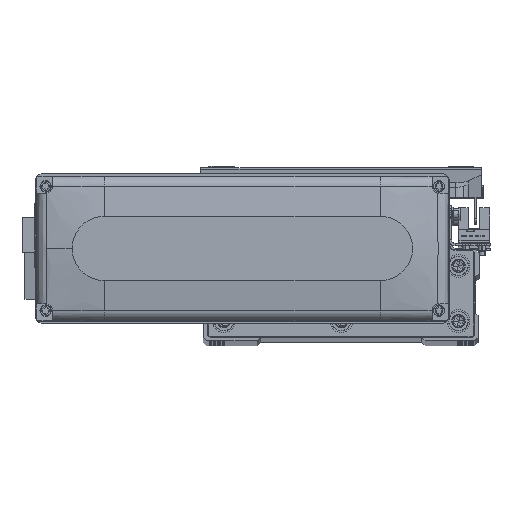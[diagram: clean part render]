
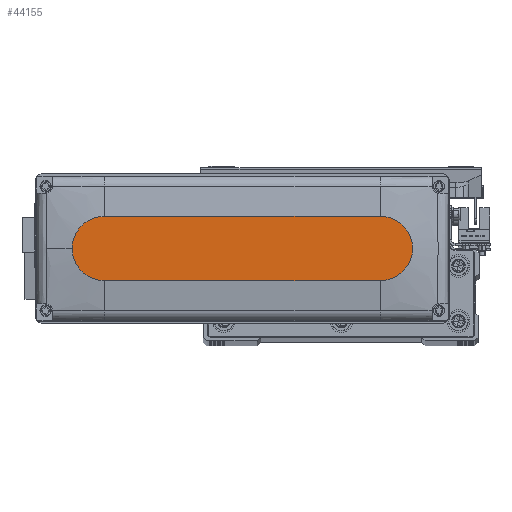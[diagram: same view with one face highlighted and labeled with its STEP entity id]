
A CAD part, top view. The second image highlights one B-rep face of the part: STEP entity #44155.
In plain terms, the highlighted planar face has unit normal (0, 0, 1).
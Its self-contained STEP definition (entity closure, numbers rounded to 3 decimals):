
#1122 = DIRECTION ( 'NONE',  ( 1., 0., 0. ) ) ;
#1348 = VECTOR ( 'NONE', #21185, 1000. ) ;
#1417 = CARTESIAN_POINT ( 'NONE',  ( -60., 14., 28.5 ) ) ;
#1425 = DIRECTION ( 'NONE',  ( 0., 0., 1. ) ) ;
#1677 = AXIS2_PLACEMENT_3D ( 'NONE', #36500, #2247, #17521 ) ;
#1908 = EDGE_CURVE ( 'NONE', #8357, #37999, #40203, .T. ) ;
#2247 = DIRECTION ( 'NONE',  ( 0., 0., 1. ) ) ;
#2490 = DIRECTION ( 'NONE',  ( 0., 0., 1. ) ) ;
#5930 = CARTESIAN_POINT ( 'NONE',  ( -60., -14., 28.5 ) ) ;
#5987 = FACE_OUTER_BOUND ( 'NONE', #12427, .T. ) ;
#8357 = VERTEX_POINT ( 'NONE', #21957 ) ;
#8819 = AXIS2_PLACEMENT_3D ( 'NONE', #20146, #35392, #1122 ) ;
#10153 = CARTESIAN_POINT ( 'NONE',  ( 60., -14., 28.5 ) ) ;
#12427 = EDGE_LOOP ( 'NONE', ( #18682, #41463, #34203, #28044, #46556 ) ) ;
#15646 = EDGE_CURVE ( 'NONE', #23582, #30740, #42988, .T. ) ;
#16690 = DIRECTION ( 'NONE',  ( -1., 0., 0. ) ) ;
#16700 = DIRECTION ( 'NONE',  ( 1., 0., 0. ) ) ;
#17521 = DIRECTION ( 'NONE',  ( 1., 0., 0. ) ) ;
#17756 = DIRECTION ( 'NONE',  ( 1., 0., 0. ) ) ;
#18682 = ORIENTED_EDGE ( 'NONE', *, *, #36573, .T. ) ;
#20146 = CARTESIAN_POINT ( 'NONE',  ( -60., 0., 28.5 ) ) ;
#20453 = CIRCLE ( 'NONE', #48404, 14. ) ;
#21185 = DIRECTION ( 'NONE',  ( 1., 0., 0. ) ) ;
#21245 = PLANE ( 'NONE',  #1677 ) ;
#21414 = AXIS2_PLACEMENT_3D ( 'NONE', #35690, #1425, #16700 ) ;
#21957 = CARTESIAN_POINT ( 'NONE',  ( -60., -14., 28.5 ) ) ;
#23582 = VERTEX_POINT ( 'NONE', #28099 ) ;
#24162 = EDGE_CURVE ( 'NONE', #37999, #23582, #20453, .T. ) ;
#28044 = ORIENTED_EDGE ( 'NONE', *, *, #24162, .T. ) ;
#28099 = CARTESIAN_POINT ( 'NONE',  ( 74., 0., 28.5 ) ) ;
#28280 = CARTESIAN_POINT ( 'NONE',  ( -60., 14., 28.5 ) ) ;
#30363 = CIRCLE ( 'NONE', #8819, 14. ) ;
#30740 = VERTEX_POINT ( 'NONE', #36369 ) ;
#31254 = EDGE_CURVE ( 'NONE', #44102, #8357, #30363, .T. ) ;
#34203 = ORIENTED_EDGE ( 'NONE', *, *, #1908, .T. ) ;
#35392 = DIRECTION ( 'NONE',  ( 0., 0., 1. ) ) ;
#35681 = LINE ( 'NONE', #1417, #37845 ) ;
#35690 = CARTESIAN_POINT ( 'NONE',  ( 60., 0., 28.5 ) ) ;
#36369 = CARTESIAN_POINT ( 'NONE',  ( 60., 14., 28.5 ) ) ;
#36500 = CARTESIAN_POINT ( 'NONE',  ( 0., 0., 28.5 ) ) ;
#36573 = EDGE_CURVE ( 'NONE', #30740, #44102, #35681, .T. ) ;
#36751 = CARTESIAN_POINT ( 'NONE',  ( 60., 0., 28.5 ) ) ;
#37845 = VECTOR ( 'NONE', #16690, 1000. ) ;
#37999 = VERTEX_POINT ( 'NONE', #10153 ) ;
#40203 = LINE ( 'NONE', #5930, #1348 ) ;
#41463 = ORIENTED_EDGE ( 'NONE', *, *, #31254, .T. ) ;
#42988 = CIRCLE ( 'NONE', #21414, 14. ) ;
#44102 = VERTEX_POINT ( 'NONE', #28280 ) ;
#44155 = ADVANCED_FACE ( 'NONE', ( #5987 ), #21245, .T. ) ;
#46556 = ORIENTED_EDGE ( 'NONE', *, *, #15646, .T. ) ;
#48404 = AXIS2_PLACEMENT_3D ( 'NONE', #36751, #2490, #17756 ) ;
